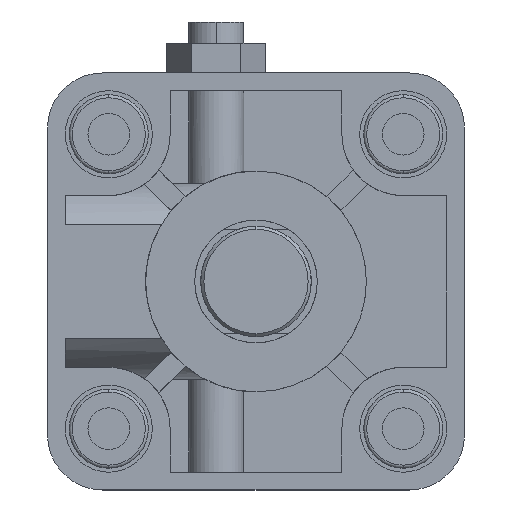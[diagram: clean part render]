
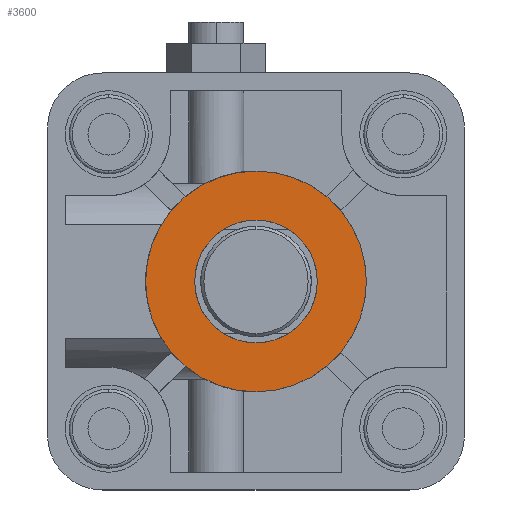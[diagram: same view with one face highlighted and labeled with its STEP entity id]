
A CAD part, left-side view. The second image highlights one B-rep face of the part: STEP entity #3600.
In plain terms, the highlighted planar face has unit normal (-1, 0, 0) as drawn and (1, 0, 0) by its records, which use the part's own axes.
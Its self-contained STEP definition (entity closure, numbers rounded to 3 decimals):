
#306 = VERTEX_POINT ( 'NONE', #5091 ) ;
#743 = EDGE_CURVE ( 'NONE', #7690, #6132, #3372, .T. ) ;
#809 = EDGE_LOOP ( 'NONE', ( #4816, #1369 ) ) ;
#886 = DIRECTION ( 'NONE',  ( 0., 0., 1. ) ) ;
#1004 = CARTESIAN_POINT ( 'NONE',  ( 26., 0., 0. ) ) ;
#1250 = EDGE_CURVE ( 'NONE', #306, #6899, #4183, .T. ) ;
#1369 = ORIENTED_EDGE ( 'NONE', *, *, #743, .T. ) ;
#2001 = ORIENTED_EDGE ( 'NONE', *, *, #4322, .F. ) ;
#2021 = CARTESIAN_POINT ( 'NONE',  ( 26., 0., -10. ) ) ;
#2331 = FACE_OUTER_BOUND ( 'NONE', #5799, .T. ) ;
#2443 = CARTESIAN_POINT ( 'NONE',  ( 26., 0., 10. ) ) ;
#2913 = CIRCLE ( 'NONE', #6509, 18. ) ;
#3243 = DIRECTION ( 'NONE',  ( 0., 0., 1. ) ) ;
#3322 = FACE_BOUND ( 'NONE', #809, .T. ) ;
#3364 = CARTESIAN_POINT ( 'NONE',  ( 26., 0., 0. ) ) ;
#3372 = CIRCLE ( 'NONE', #6453, 10. ) ;
#3440 = DIRECTION ( 'NONE',  ( -1., 0., 0. ) ) ;
#3600 = ADVANCED_FACE ( 'NONE', ( #2331, #3322 ), #5423, .F. ) ;
#3703 = CARTESIAN_POINT ( 'NONE',  ( 26., 0., 0. ) ) ;
#4020 = CARTESIAN_POINT ( 'NONE',  ( 26., 0., 18. ) ) ;
#4183 = CIRCLE ( 'NONE', #4903, 18. ) ;
#4322 = EDGE_CURVE ( 'NONE', #6899, #306, #2913, .T. ) ;
#4816 = ORIENTED_EDGE ( 'NONE', *, *, #6066, .T. ) ;
#4903 = AXIS2_PLACEMENT_3D ( 'NONE', #7939, #6112, #5864 ) ;
#5091 = CARTESIAN_POINT ( 'NONE',  ( 26., 0., -18. ) ) ;
#5267 = DIRECTION ( 'NONE',  ( -1., 0., 0. ) ) ;
#5368 = AXIS2_PLACEMENT_3D ( 'NONE', #1004, #6059, #886 ) ;
#5423 = PLANE ( 'NONE',  #5925 ) ;
#5799 = EDGE_LOOP ( 'NONE', ( #2001, #6128 ) ) ;
#5864 = DIRECTION ( 'NONE',  ( 0., 0., 1. ) ) ;
#5925 = AXIS2_PLACEMENT_3D ( 'NONE', #7006, #3440, #7622 ) ;
#6059 = DIRECTION ( 'NONE',  ( -1., 0., 0. ) ) ;
#6066 = EDGE_CURVE ( 'NONE', #6132, #7690, #6206, .T. ) ;
#6112 = DIRECTION ( 'NONE',  ( -1., 0., 0. ) ) ;
#6128 = ORIENTED_EDGE ( 'NONE', *, *, #1250, .F. ) ;
#6132 = VERTEX_POINT ( 'NONE', #2443 ) ;
#6206 = CIRCLE ( 'NONE', #5368, 10. ) ;
#6453 = AXIS2_PLACEMENT_3D ( 'NONE', #3703, #5267, #6729 ) ;
#6509 = AXIS2_PLACEMENT_3D ( 'NONE', #3364, #7287, #3243 ) ;
#6729 = DIRECTION ( 'NONE',  ( 0., 0., 1. ) ) ;
#6899 = VERTEX_POINT ( 'NONE', #4020 ) ;
#7006 = CARTESIAN_POINT ( 'NONE',  ( 26., 10., 0. ) ) ;
#7287 = DIRECTION ( 'NONE',  ( -1., 0., 0. ) ) ;
#7622 = DIRECTION ( 'NONE',  ( 0., 0., 1. ) ) ;
#7690 = VERTEX_POINT ( 'NONE', #2021 ) ;
#7939 = CARTESIAN_POINT ( 'NONE',  ( 26., 0., 0. ) ) ;
